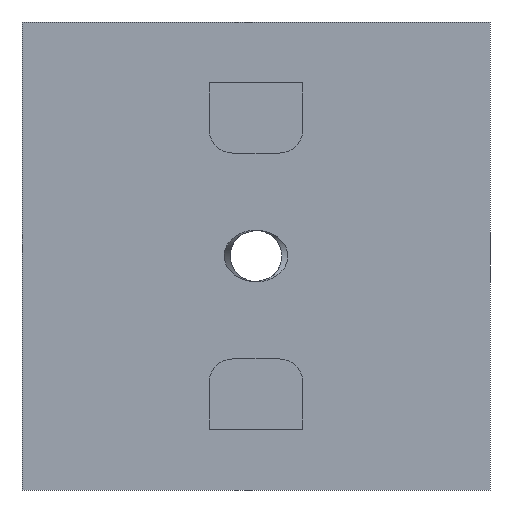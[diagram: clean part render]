
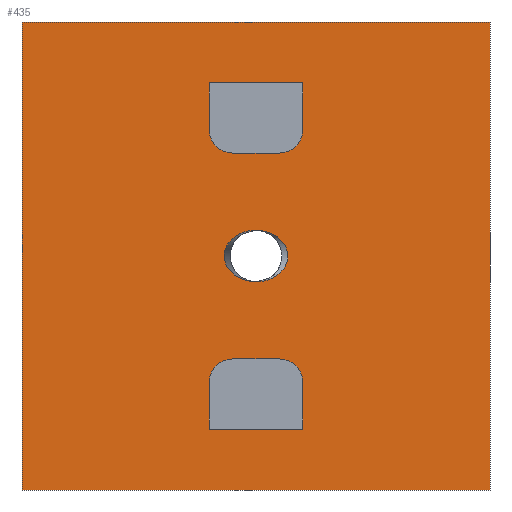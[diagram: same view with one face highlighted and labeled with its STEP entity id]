
A CAD part, front view. The second image highlights one B-rep face of the part: STEP entity #435.
In plain terms, the highlighted planar face has unit normal (0, -1, 0).
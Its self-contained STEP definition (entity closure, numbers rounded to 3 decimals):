
#15=FACE_BOUND('',#86,.T.);
#16=FACE_BOUND('',#87,.T.);
#17=FACE_BOUND('',#88,.T.);
#21=ELLIPSE('',#478,0.68,0.55);
#28=ELLIPSE('',#488,0.68,0.55);
#39=PLANE('',#489);
#62=FACE_OUTER_BOUND('',#85,.T.);
#85=EDGE_LOOP('',(#370,#371,#372,#373));
#86=EDGE_LOOP('',(#374,#375,#376,#377,#378,#379));
#87=EDGE_LOOP('',(#380,#381,#382,#383,#384,#385));
#88=EDGE_LOOP('',(#386,#387));
#101=LINE('',#635,#144);
#107=LINE('',#655,#150);
#113=LINE('',#670,#156);
#116=LINE('',#679,#159);
#120=LINE('',#686,#163);
#121=LINE('',#688,#164);
#123=LINE('',#692,#166);
#124=LINE('',#694,#167);
#128=LINE('',#720,#171);
#129=LINE('',#722,#172);
#130=LINE('',#724,#173);
#131=LINE('',#725,#174);
#144=VECTOR('',#509,10.);
#150=VECTOR('',#527,10.);
#156=VECTOR('',#541,10.);
#159=VECTOR('',#550,10.);
#163=VECTOR('',#556,10.);
#164=VECTOR('',#559,10.);
#166=VECTOR('',#565,10.);
#167=VECTOR('',#568,10.);
#171=VECTOR('',#598,10.);
#172=VECTOR('',#599,10.);
#173=VECTOR('',#600,10.);
#174=VECTOR('',#601,10.);
#184=CIRCLE('',#457,0.5);
#187=CIRCLE('',#463,0.5);
#189=CIRCLE('',#467,0.5);
#190=CIRCLE('',#470,0.5);
#194=VERTEX_POINT('',#625);
#195=VERTEX_POINT('',#627);
#197=VERTEX_POINT('',#633);
#203=VERTEX_POINT('',#648);
#204=VERTEX_POINT('',#650);
#205=VERTEX_POINT('',#654);
#209=VERTEX_POINT('',#663);
#210=VERTEX_POINT('',#665);
#211=VERTEX_POINT('',#672);
#212=VERTEX_POINT('',#674);
#213=VERTEX_POINT('',#678);
#215=VERTEX_POINT('',#684);
#216=VERTEX_POINT('',#696);
#217=VERTEX_POINT('',#697);
#223=VERTEX_POINT('',#718);
#224=VERTEX_POINT('',#719);
#225=VERTEX_POINT('',#721);
#226=VERTEX_POINT('',#723);
#233=EDGE_CURVE('',#194,#195,#184,.F.);
#237=EDGE_CURVE('',#194,#197,#101,.T.);
#244=EDGE_CURVE('',#203,#204,#187,.F.);
#246=EDGE_CURVE('',#205,#204,#107,.T.);
#251=EDGE_CURVE('',#209,#210,#189,.F.);
#254=EDGE_CURVE('',#203,#210,#113,.T.);
#256=EDGE_CURVE('',#211,#212,#190,.F.);
#258=EDGE_CURVE('',#213,#212,#116,.T.);
#262=EDGE_CURVE('',#209,#215,#120,.T.);
#263=EDGE_CURVE('',#215,#205,#121,.T.);
#265=EDGE_CURVE('',#211,#195,#123,.T.);
#266=EDGE_CURVE('',#197,#213,#124,.T.);
#267=EDGE_CURVE('',#216,#217,#21,.T.);
#278=EDGE_CURVE('',#217,#216,#28,.T.);
#279=EDGE_CURVE('',#223,#224,#128,.T.);
#280=EDGE_CURVE('',#224,#225,#129,.T.);
#281=EDGE_CURVE('',#226,#225,#130,.T.);
#282=EDGE_CURVE('',#223,#226,#131,.T.);
#370=ORIENTED_EDGE('',*,*,#279,.T.);
#371=ORIENTED_EDGE('',*,*,#280,.T.);
#372=ORIENTED_EDGE('',*,*,#281,.F.);
#373=ORIENTED_EDGE('',*,*,#282,.F.);
#374=ORIENTED_EDGE('',*,*,#262,.T.);
#375=ORIENTED_EDGE('',*,*,#263,.T.);
#376=ORIENTED_EDGE('',*,*,#246,.T.);
#377=ORIENTED_EDGE('',*,*,#244,.F.);
#378=ORIENTED_EDGE('',*,*,#254,.T.);
#379=ORIENTED_EDGE('',*,*,#251,.F.);
#380=ORIENTED_EDGE('',*,*,#258,.T.);
#381=ORIENTED_EDGE('',*,*,#256,.F.);
#382=ORIENTED_EDGE('',*,*,#265,.T.);
#383=ORIENTED_EDGE('',*,*,#233,.F.);
#384=ORIENTED_EDGE('',*,*,#237,.T.);
#385=ORIENTED_EDGE('',*,*,#266,.T.);
#386=ORIENTED_EDGE('',*,*,#267,.T.);
#387=ORIENTED_EDGE('',*,*,#278,.T.);
#435=ADVANCED_FACE('',(#62,#15,#16,#17),#39,.T.);
#457=AXIS2_PLACEMENT_3D('',#628,#502,#503);
#463=AXIS2_PLACEMENT_3D('',#651,#522,#523);
#467=AXIS2_PLACEMENT_3D('',#666,#535,#536);
#470=AXIS2_PLACEMENT_3D('',#675,#545,#546);
#478=AXIS2_PLACEMENT_3D('',#698,#571,#572);
#488=AXIS2_PLACEMENT_3D('',#716,#594,#595);
#489=AXIS2_PLACEMENT_3D('',#717,#596,#597);
#502=DIRECTION('center_axis',(0.,1.,0.));
#503=DIRECTION('ref_axis',(-0.707,0.,-0.707));
#509=DIRECTION('',(0.,0.,1.));
#522=DIRECTION('center_axis',(0.,1.,0.));
#523=DIRECTION('ref_axis',(-0.707,0.,0.707));
#527=DIRECTION('',(0.,0.,1.));
#535=DIRECTION('center_axis',(0.,1.,0.));
#536=DIRECTION('ref_axis',(0.707,0.,0.707));
#541=DIRECTION('',(1.,0.,0.));
#545=DIRECTION('center_axis',(0.,1.,0.));
#546=DIRECTION('ref_axis',(0.707,0.,-0.707));
#550=DIRECTION('',(0.,0.,-1.));
#556=DIRECTION('',(0.,0.,-1.));
#559=DIRECTION('',(-1.,0.,0.));
#565=DIRECTION('',(-1.,0.,0.));
#568=DIRECTION('',(1.,0.,0.));
#571=DIRECTION('center_axis',(0.,1.,0.));
#572=DIRECTION('ref_axis',(-1.,0.,0.));
#594=DIRECTION('center_axis',(0.,1.,0.));
#595=DIRECTION('ref_axis',(1.,0.,0.));
#596=DIRECTION('center_axis',(0.,-1.,0.));
#597=DIRECTION('ref_axis',(1.,0.,0.));
#598=DIRECTION('',(1.,0.,0.));
#599=DIRECTION('',(0.,0.,1.));
#600=DIRECTION('',(1.,0.,0.));
#601=DIRECTION('',(0.,0.,1.));
#625=CARTESIAN_POINT('',(-1.,-5.25,7.7));
#627=CARTESIAN_POINT('',(-0.5,-5.25,7.2));
#628=CARTESIAN_POINT('Origin',(-0.5,-5.25,7.7));
#633=CARTESIAN_POINT('',(-1.,-5.25,8.7));
#635=CARTESIAN_POINT('',(-1.,-5.25,4.35));
#648=CARTESIAN_POINT('',(-0.5,-5.25,2.8));
#650=CARTESIAN_POINT('',(-1.,-5.25,2.3));
#651=CARTESIAN_POINT('Origin',(-0.5,-5.25,2.3));
#654=CARTESIAN_POINT('',(-1.,-5.25,1.3));
#655=CARTESIAN_POINT('',(-1.,-5.25,1.4));
#663=CARTESIAN_POINT('',(1.,-5.25,2.3));
#665=CARTESIAN_POINT('',(0.5,-5.25,2.8));
#666=CARTESIAN_POINT('Origin',(0.5,-5.25,2.3));
#670=CARTESIAN_POINT('',(-2.,-5.25,2.8));
#672=CARTESIAN_POINT('',(0.5,-5.25,7.2));
#674=CARTESIAN_POINT('',(1.,-5.25,7.7));
#675=CARTESIAN_POINT('Origin',(0.5,-5.25,7.7));
#678=CARTESIAN_POINT('',(1.,-5.25,8.7));
#679=CARTESIAN_POINT('',(1.,-5.25,3.6));
#684=CARTESIAN_POINT('',(1.,-5.25,1.3));
#686=CARTESIAN_POINT('',(1.,-5.25,0.65));
#688=CARTESIAN_POINT('',(-3.,-5.25,1.3));
#692=CARTESIAN_POINT('',(-3.,-5.25,7.2));
#694=CARTESIAN_POINT('',(-2.,-5.25,8.7));
#696=CARTESIAN_POINT('',(0.,-5.25,4.45));
#697=CARTESIAN_POINT('',(0.,-5.25,5.55));
#698=CARTESIAN_POINT('Origin',(0.,-5.25,5.));
#716=CARTESIAN_POINT('Origin',(0.,-5.25,5.));
#717=CARTESIAN_POINT('Origin',(-5.,-5.25,0.));
#718=CARTESIAN_POINT('',(-5.,-5.25,0.));
#719=CARTESIAN_POINT('',(5.,-5.25,0.));
#720=CARTESIAN_POINT('',(-5.,-5.25,0.));
#721=CARTESIAN_POINT('',(5.,-5.25,10.));
#722=CARTESIAN_POINT('',(5.,-5.25,0.));
#723=CARTESIAN_POINT('',(-5.,-5.25,10.));
#724=CARTESIAN_POINT('',(-5.,-5.25,10.));
#725=CARTESIAN_POINT('',(-5.,-5.25,0.));
